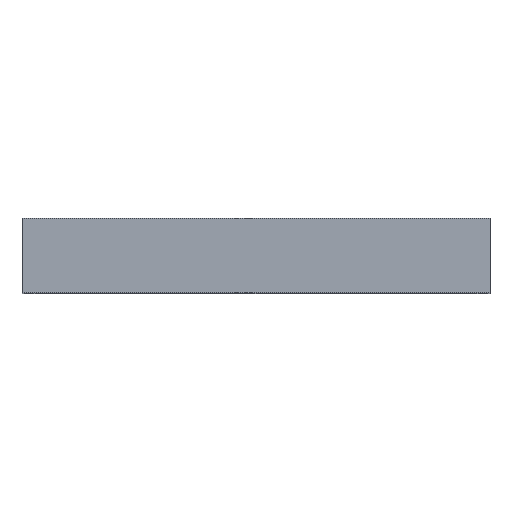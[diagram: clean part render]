
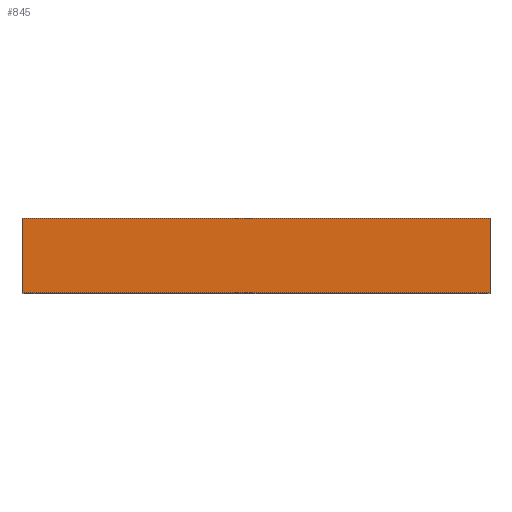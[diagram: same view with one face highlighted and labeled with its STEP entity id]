
A CAD part, top view. The second image highlights one B-rep face of the part: STEP entity #845.
In plain terms, the highlighted planar face has unit normal (0, 0, 1).
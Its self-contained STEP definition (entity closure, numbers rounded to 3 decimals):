
#55 = VERTEX_POINT ( 'NONE', #135 ) ;
#56 = VERTEX_POINT ( 'NONE', #136 ) ;
#121 = VERTEX_POINT ( 'NONE', #196 ) ;
#123 = VERTEX_POINT ( 'NONE', #198 ) ;
#135 = CARTESIAN_POINT ( 'NONE',  ( -204., 65., 239.5 ) ) ;
#136 = CARTESIAN_POINT ( 'NONE',  ( 204., 65., 239.5 ) ) ;
#196 = CARTESIAN_POINT ( 'NONE',  ( 204., 0., 239.5 ) ) ;
#198 = CARTESIAN_POINT ( 'NONE',  ( -204., 0., 239.5 ) ) ;
#337 = CARTESIAN_POINT ( 'NONE',  ( -204., 65., 239.5 ) ) ;
#338 = DIRECTION ( 'NONE',  ( 1., 0., 0. ) ) ;
#349 = CARTESIAN_POINT ( 'NONE',  ( -204., 0., 239.5 ) ) ;
#350 = DIRECTION ( 'NONE',  ( 1., 0., 0. ) ) ;
#381 = CARTESIAN_POINT ( 'NONE',  ( 204., 65., 239.5 ) ) ;
#382 = DIRECTION ( 'NONE',  ( 0., -1., 0. ) ) ;
#383 = CARTESIAN_POINT ( 'NONE',  ( -204., 65., 239.5 ) ) ;
#384 = DIRECTION ( 'NONE',  ( 0., -1., 0. ) ) ;
#520 = PLANE ( 'NONE',  #787 ) ;
#523 = CARTESIAN_POINT ( 'NONE',  ( -204., 65., 239.5 ) ) ;
#529 = DIRECTION ( 'NONE',  ( 0., 0., -1. ) ) ;
#530 = DIRECTION ( 'NONE',  ( -1., 0., 0. ) ) ;
#712 = EDGE_CURVE ( 'NONE', #55, #56, #1372, .T. ) ;
#718 = EDGE_CURVE ( 'NONE', #123, #121, #1358, .T. ) ;
#734 = EDGE_CURVE ( 'NONE', #56, #121, #1325, .T. ) ;
#735 = EDGE_CURVE ( 'NONE', #55, #123, #1324, .T. ) ;
#787 = AXIS2_PLACEMENT_3D ( 'NONE', #523, #529, #530 ) ;
#845 = ADVANCED_FACE ( 'NONE', ( #1463 ), #520, .F. ) ;
#1065 = EDGE_LOOP ( 'NONE', ( #1284, #1116, #1177, #1115 ) ) ;
#1115 = ORIENTED_EDGE ( 'NONE', *, *, #735, .T. ) ;
#1116 = ORIENTED_EDGE ( 'NONE', *, *, #734, .F. ) ;
#1177 = ORIENTED_EDGE ( 'NONE', *, *, #712, .F. ) ;
#1284 = ORIENTED_EDGE ( 'NONE', *, *, #718, .T. ) ;
#1323 = VECTOR ( 'NONE', #384, 1000. ) ;
#1324 = LINE ( 'NONE', #383, #1323 ) ;
#1325 = LINE ( 'NONE', #381, #1327 ) ;
#1327 = VECTOR ( 'NONE', #382, 1000. ) ;
#1357 = VECTOR ( 'NONE', #350, 1000. ) ;
#1358 = LINE ( 'NONE', #349, #1357 ) ;
#1369 = VECTOR ( 'NONE', #338, 1000. ) ;
#1372 = LINE ( 'NONE', #337, #1369 ) ;
#1463 = FACE_OUTER_BOUND ( 'NONE', #1065, .T. ) ;
